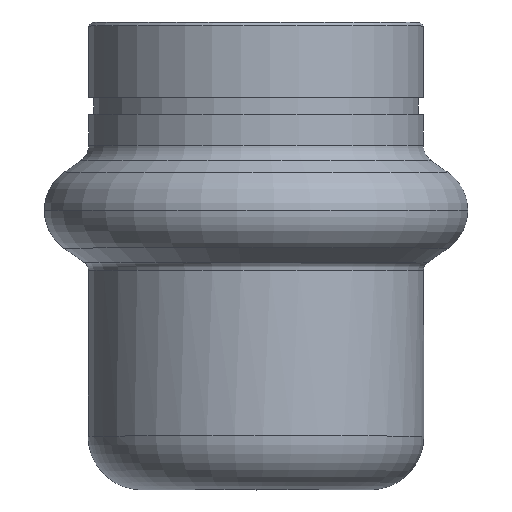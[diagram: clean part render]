
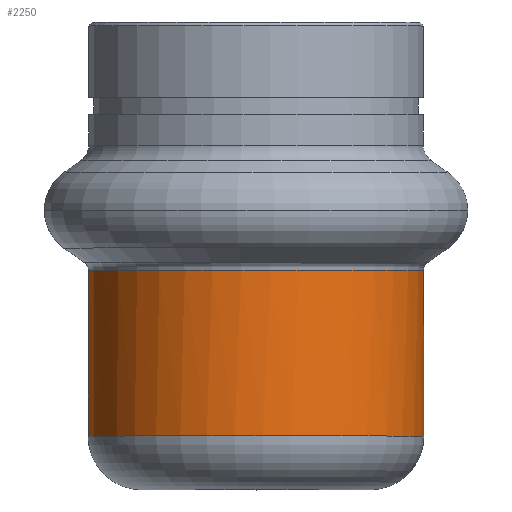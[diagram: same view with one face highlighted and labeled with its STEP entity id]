
A CAD part, top view. The second image highlights one B-rep face of the part: STEP entity #2250.
In plain terms, the highlighted cylindrical face has radius 8.925 mm (diameter 17.85 mm), a partial arc.
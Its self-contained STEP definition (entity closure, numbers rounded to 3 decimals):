
#1650=CARTESIAN_POINT('',(19.318,8.805,
0.743));
#1660=VERTEX_POINT('',#1650);
#1750=CARTESIAN_POINT('',(1.532,8.805,
2.257));
#1760=VERTEX_POINT('',#1750);
#1790=CARTESIAN_POINT('',(10.425,8.805,1.5));
#1800=DIRECTION('',(0.,1.,0.));
#1810=DIRECTION('',(-0.996,0.,0.085));
#1820=AXIS2_PLACEMENT_3D('',#1790,#1800,#1810);
#1830=CIRCLE('',#1820,8.925);
#1890=CARTESIAN_POINT('',(10.425,6.402,1.5));
#1900=DIRECTION('',(0.,-1.,0.));
#1910=DIRECTION('',(-0.996,0.,0.085));
#1920=AXIS2_PLACEMENT_3D('',#1890,#1900,#1910);
#1930=CYLINDRICAL_SURFACE('',#1920,8.925);
#1940=CARTESIAN_POINT('',(10.425,0.,1.5));
#1950=DIRECTION('',(0.,-1.,0.));
#1960=DIRECTION('',(1.,0.,0.));
#1970=AXIS2_PLACEMENT_3D('',#1940,#1950,#1960);
#1980=CIRCLE('',#1970,8.925);
#1990=CARTESIAN_POINT('',(19.35,0.,1.5));
#2000=VERTEX_POINT('',#1990);
#2010=CARTESIAN_POINT('',(1.532,0.,2.257));
#2020=VERTEX_POINT('',#2010);
#2030=EDGE_CURVE('',#2000,#2020,#1980,.T.);
#2040=ORIENTED_EDGE('',*,*,#2030,.F.);
#2050=CARTESIAN_POINT('',(1.532,6.402,
2.257));
#2060=DIRECTION('',(0.,-1.,0.));
#2070=VECTOR('',#2060,1.);
#2080=LINE('',#2050,#2070);
#2090=EDGE_CURVE('',#1760,#2020,#2080,.T.);
#2100=ORIENTED_EDGE('',*,*,#2090,.T.);
#2110=EDGE_CURVE('',#1760,#1660,#1830,.T.);
#2120=ORIENTED_EDGE('',*,*,#2110,.F.);
#2130=CARTESIAN_POINT('',(19.318,6.402,
0.743));
#2140=DIRECTION('',(0.,-1.,0.));
#2150=VECTOR('',#2140,1.);
#2160=LINE('',#2130,#2150);
#2170=CARTESIAN_POINT('',(19.318,0.,0.743));
#2180=VERTEX_POINT('',#2170);
#2190=EDGE_CURVE('',#1660,#2180,#2160,.T.);
#2200=ORIENTED_EDGE('',*,*,#2190,.F.);
#2210=EDGE_CURVE('',#2180,#2000,#1980,.T.);
#2220=ORIENTED_EDGE('',*,*,#2210,.F.);
#2230=EDGE_LOOP('',(#2220,#2200,#2120,#2100,#2040));
#2240=FACE_OUTER_BOUND('',#2230,.T.);
#2250=ADVANCED_FACE('',(#2240),#1930,.T.);
